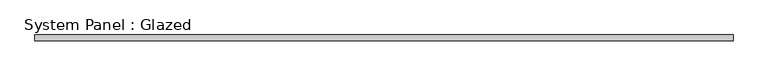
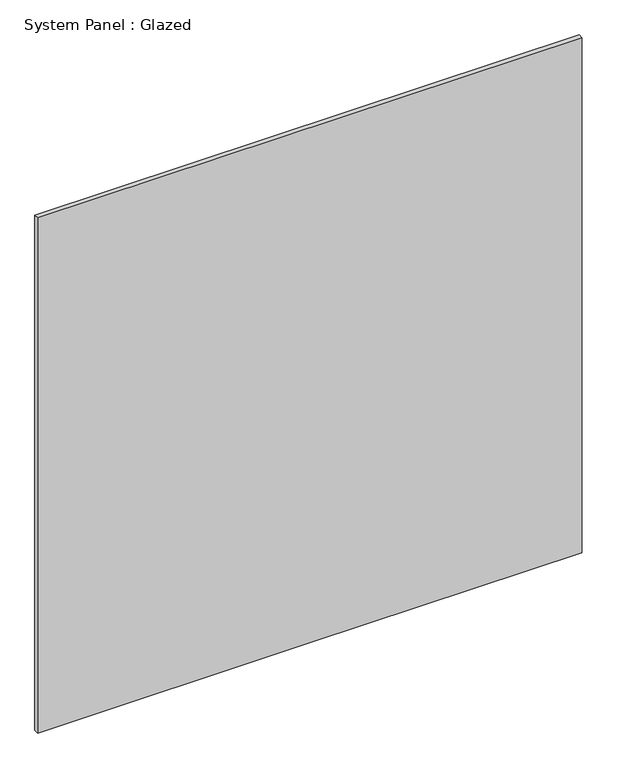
"""IFC4 building model written with IfcOpenShell, lengths in millimetres: plate geometry, System Panel : Glazed."""

import ifcopenshell
import ifcopenshell.guid

model = None  # the IFC model being written
_history = None  # IfcOwnerHistory: only IFC2X3 demands one
_inside = {}  # id of a spatial element -> (the spatial element, [elements in it])
_under = {}  # id of a project, library or spatial element -> (it, [spatial elements below it])
_declared = {}  # id of a project -> (the project, [libraries it declares])
_typed = {}  # id of a type object -> (the type object, [elements of that type])
_made_of = {}  # id of a material, layer set ... -> (it, [elements and type objects made of it])


def new_model(schema):
    """Start an empty IFC model of exactly this schema.

    Asked for "IFC4X3", IfcOpenShell would pick the latest addendum, in which some entities
    have other attributes; the version numbers below select the first issue.
    IFC2X3 requires an IfcOwnerHistory on every rooted entity: one is made here for all.
    """
    global model, _history
    if schema == "IFC4X3":
        model = ifcopenshell.file(schema_version=(4, 3, 0, 0))
    else:
        model = ifcopenshell.file(schema=schema)
    _inside.clear()
    _under.clear()
    _declared.clear()
    _typed.clear()
    _made_of.clear()
    _history = None
    if model.schema == "IFC2X3":
        org = make("IfcOrganization", Name="unknown")
        user = make(
            "IfcPersonAndOrganization",
            ThePerson=make("IfcPerson", FamilyName="unknown"),
            TheOrganization=org,
        )
        app = make(
            "IfcApplication",
            ApplicationDeveloper=org,
            Version="unknown",
            ApplicationFullName="unknown",
            ApplicationIdentifier="unknown",
        )
        _history = make(
            "IfcOwnerHistory",
            OwningUser=user,
            OwningApplication=app,
            ChangeAction="ADDED",
            CreationDate=0,
        )
    return model


def make(cls, **values):
    """One entity of the class cls with the attributes given. An attribute that is None is left unset."""
    return model.create_entity(
        cls, **{name: value for name, value in values.items() if value is not None}
    )


def rooted(cls, **values):
    """An entity with a GlobalId (a new one), such as an element, a storey or a relation."""
    return make(cls, GlobalId=ifcopenshell.guid.new(), OwnerHistory=_history, **values)


def si_unit(unit_type, name, prefix=None):
    """IfcSIUnit, for example si_unit("LENGTHUNIT", "METRE", prefix="MILLI")."""
    return make("IfcSIUnit", UnitType=unit_type, Prefix=prefix, Name=name)


def assignment(units):
    """IfcUnitAssignment: the units of a project."""
    return None if units is None else make("IfcUnitAssignment", Units=units)


def point(xyz):
    """IfcCartesianPoint."""
    return None if xyz is None else make("IfcCartesianPoint", Coordinates=xyz)


def direction(xyz):
    """IfcDirection."""
    return None if xyz is None else make("IfcDirection", DirectionRatios=xyz)


def frame(location, z_axis=None, x_axis=None):
    """IfcAxis2Placement3D, a coordinate frame: its origin and axes. An axis left out is left unset."""
    return make(
        "IfcAxis2Placement3D",
        Location=point(location),
        Axis=direction(z_axis),
        RefDirection=direction(x_axis),
    )


def origin():
    """The frame at (0, 0, 0) with its axes left unset."""
    return frame((0.0, 0.0, 0.0))


def place(relative_to, where):
    """IfcLocalPlacement: puts the frame where relative to a parent placement (None: the world)."""
    return make(
        "IfcLocalPlacement", PlacementRelTo=relative_to, RelativePlacement=where
    )


def context(
    kind, dimensions, precision=None, world=None, true_north=None, identifier=None
):
    """IfcGeometricRepresentationContext, for example the 3D "Model" context."""
    return make(
        "IfcGeometricRepresentationContext",
        ContextIdentifier=identifier,
        ContextType=kind,
        CoordinateSpaceDimension=dimensions,
        Precision=precision,
        WorldCoordinateSystem=world,
        TrueNorth=true_north,
    )


def project(units=None, contexts=None):
    """IfcProject with its units and contexts."""
    return rooted(
        "IfcProject",
        Name="project",
        RepresentationContexts=contexts,
        UnitsInContext=assignment(units),
    )


def spatial(cls, under=None, at=None, **own):
    """A site, building, storey or space (cls), placed at a placement, below another one or the project."""
    s = rooted(cls, ObjectPlacement=at, **own)
    if under is not None:
        _under.setdefault(under.id(), (under, []))[1].append(s)
    return s


def polyline(points):
    """IfcPolyline through the points."""
    return make("IfcPolyline", Points=[point(p) for p in points])


def outline(outer, holes=None, kind="AREA"):
    """IfcArbitraryClosedProfileDef: a profile drawn as a closed curve; with holes, ...WithVoids."""
    if holes is None:
        return make("IfcArbitraryClosedProfileDef", ProfileType=kind, OuterCurve=outer)
    return make(
        "IfcArbitraryProfileDefWithVoids",
        ProfileType=kind,
        OuterCurve=outer,
        InnerCurves=holes,
    )


def extrude(swept, where, along, depth):
    """IfcExtrudedAreaSolid: the profile swept, set in the frame where, extruded along a direction by depth."""
    return make(
        "IfcExtrudedAreaSolid",
        SweptArea=swept,
        Position=where,
        ExtrudedDirection=direction(along),
        Depth=depth,
    )


def shape(context_of_items, identifier, shape_type, items):
    """IfcShapeRepresentation: the items that make up one representation, for example the "Body"."""
    return make(
        "IfcShapeRepresentation",
        ContextOfItems=context_of_items,
        RepresentationIdentifier=identifier,
        RepresentationType=shape_type,
        Items=items,
    )


def source(mapping_origin, context_of_items, identifier, shape_type, items):
    """IfcRepresentationMap: a shape defined once, which mapped items show again and again."""
    return make(
        "IfcRepresentationMap",
        MappingOrigin=mapping_origin,
        MappedRepresentation=shape(context_of_items, identifier, shape_type, items),
    )


def transform(
    local_origin,
    x_axis=None,
    y_axis=None,
    z_axis=None,
    scale=None,
    scale2=None,
    scale3=None,
    uniform=True,
):
    """IfcCartesianTransformationOperator3D, or its non-uniform kind. x_axis, y_axis, z_axis: its Axis1, 2, 3."""
    if uniform:
        return make(
            "IfcCartesianTransformationOperator3D",
            Axis1=direction(x_axis),
            Axis2=direction(y_axis),
            LocalOrigin=point(local_origin),
            Scale=scale,
            Axis3=direction(z_axis),
        )
    return make(
        "IfcCartesianTransformationOperator3DnonUniform",
        Axis1=direction(x_axis),
        Axis2=direction(y_axis),
        LocalOrigin=point(local_origin),
        Scale=scale,
        Axis3=direction(z_axis),
        Scale2=scale2,
        Scale3=scale3,
    )


def mapped(mapping_source, mapping_target):
    """IfcMappedItem: shows the shape of a source again, moved by a transform."""
    return make(
        "IfcMappedItem", MappingSource=mapping_source, MappingTarget=mapping_target
    )


def made_of(thing, what):
    """Note that an element or type object is made of a material, layer set ...; save() writes the relation."""
    if what is not None:
        _made_of.setdefault(what.id(), (what, []))[1].append(thing)
    return thing


def element(
    cls,
    number,
    at=None,
    inside=None,
    cuts=None,
    type_object=None,
    material=None,
    context=None,
    identifier="Body",
    shape_type=None,
    held_by="IfcProductDefinitionShape",
    body=None,
    shapes=None,
    **own,
):
    """One element of the class cls, such as IfcWall. Its Tag is "e" and its number.

    at: its placement. inside: the storey or other place that contains it. cuts: it is an
    opening in that element (IfcRelVoidsElement). A single representation is given by context,
    identifier, shape_type and body (its items); several are given by shapes. held_by: the class
    of the entity that holds the representations. save() writes the other relations.
    """
    e = rooted(cls, Tag="e%d" % number, ObjectPlacement=at, **own)
    if body is not None:
        shapes = [shape(context, identifier, shape_type, body)]
    if shapes is not None:
        e.Representation = make(held_by, Representations=shapes)
    if inside is not None:
        _inside.setdefault(inside.id(), (inside, []))[1].append(e)
    if cuts is not None:
        rooted(
            "IfcRelVoidsElement", RelatingBuildingElement=cuts, RelatedOpeningElement=e
        )
    if type_object is not None:
        _typed.setdefault(type_object.id(), (type_object, []))[1].append(e)
    return made_of(e, material)


def aggregate(whole, parts):
    """IfcRelAggregates: a whole, such as a stair, and the parts it consists of."""
    return rooted("IfcRelAggregates", RelatingObject=whole, RelatedObjects=parts)


def save(model, path):
    """Write the relations noted so far, then the file.

    IfcRelAggregates (storeys below a building ...), IfcRelContainedInSpatialStructure (elements
    in a storey), IfcRelDefinesByType, IfcRelAssociatesMaterial and IfcRelDeclares: one each for
    every whole, place, type object, material and project.
    """
    for whole, parts in _under.values():
        aggregate(whole, parts)
    for where, things in _inside.values():
        rooted(
            "IfcRelContainedInSpatialStructure",
            RelatedElements=things,
            RelatingStructure=where,
        )
    for kind, things in _typed.values():
        rooted("IfcRelDefinesByType", RelatedObjects=things, RelatingType=kind)
    for what, things in _made_of.values():
        rooted("IfcRelAssociatesMaterial", RelatedObjects=things, RelatingMaterial=what)
    for by, libraries in _declared.values():
        rooted("IfcRelDeclares", RelatingContext=by, RelatedDefinitions=libraries)
    model.write(path)


def system_panel_glazed_0a0842ec(model_context):
    return source(origin(), model_context, "Body", "SweptSolid", [
        extrude(outline(polyline([(0.0, -1524.0), (0.0, 0.0), (0.0, 1524.0), (3048.0, 1524.0), (3048.0, -1524.0), (0.0, -1524.0)])), frame((0.0, -44.45, 0.0), z_axis=(0.0, 1.0, 0.0), x_axis=(0.0, 0.0, 1.0)), (0.0, 0.0, 1.0), 25.4),
    ])


if __name__ == "__main__":
    model = new_model("IFC4")
    model_context = context("Model", 3, world=origin())
    ifc_project = project(units=[si_unit("LENGTHUNIT", "METRE", prefix="MILLI")], contexts=[model_context])
    site = spatial("IfcSite", under=ifc_project)
    building = spatial("IfcBuilding", under=site)
    placement = place(None, origin())
    system_panel_glazed_shape = system_panel_glazed_0a0842ec(model_context)
    element("IfcPlate", 1, ObjectType="System Panel : Glazed", at=placement, inside=building, context=model_context, shape_type="MappedRepresentation", body=[
        mapped(system_panel_glazed_shape, transform((0.0, 0.0, 0.0), x_axis=(1.0, 0.0, 0.0), y_axis=(0.0, 1.0, 0.0), z_axis=(0.0, 0.0, 1.0))),
    ])
    save(model, "model.ifc")
